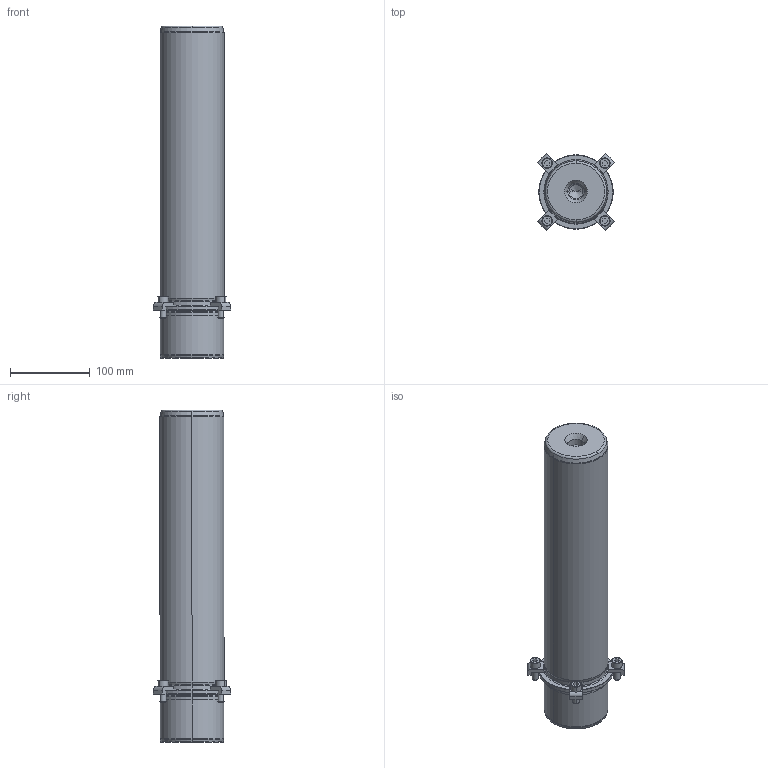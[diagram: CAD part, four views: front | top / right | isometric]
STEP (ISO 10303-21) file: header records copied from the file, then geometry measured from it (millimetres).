
FILE_DESCRIPTION((''),'2;1');
FILE_NAME('P21_080_355.stp','2008-12-19T11:27:01',(''),(''),'Mechanical Desktop 2009','Mechanical Desktop 2009',', , ');
FILE_SCHEMA(('CONFIG_CONTROL_DESIGN'));
Length unit declared in the file: millimetre
Products named in the file (2): Product; blmdl1
Assembly tree (1 placements, depth 2):
  Product
    blmdl1
Bounding box: 96.52 x 96.52 x 415 mm (x, y, z)
Volume: 2071559.1 mm3; surface area: 132148.9 mm2
Topology: 9 solids, 9 shells, 195 faces, 477 edges, 309 vertices
Faces by surface type: plane 77, cylinder 52, cone 34, torus 16, bspline 16
Entity records: 6547 total; most frequent: CARTESIAN_POINT 1683, DIRECTION 1078, ORIENTED_EDGE 946, EDGE_CURVE 473, AXIS2_PLACEMENT_3D 424, VERTEX_POINT 309, CIRCLE 243, VECTOR 230
